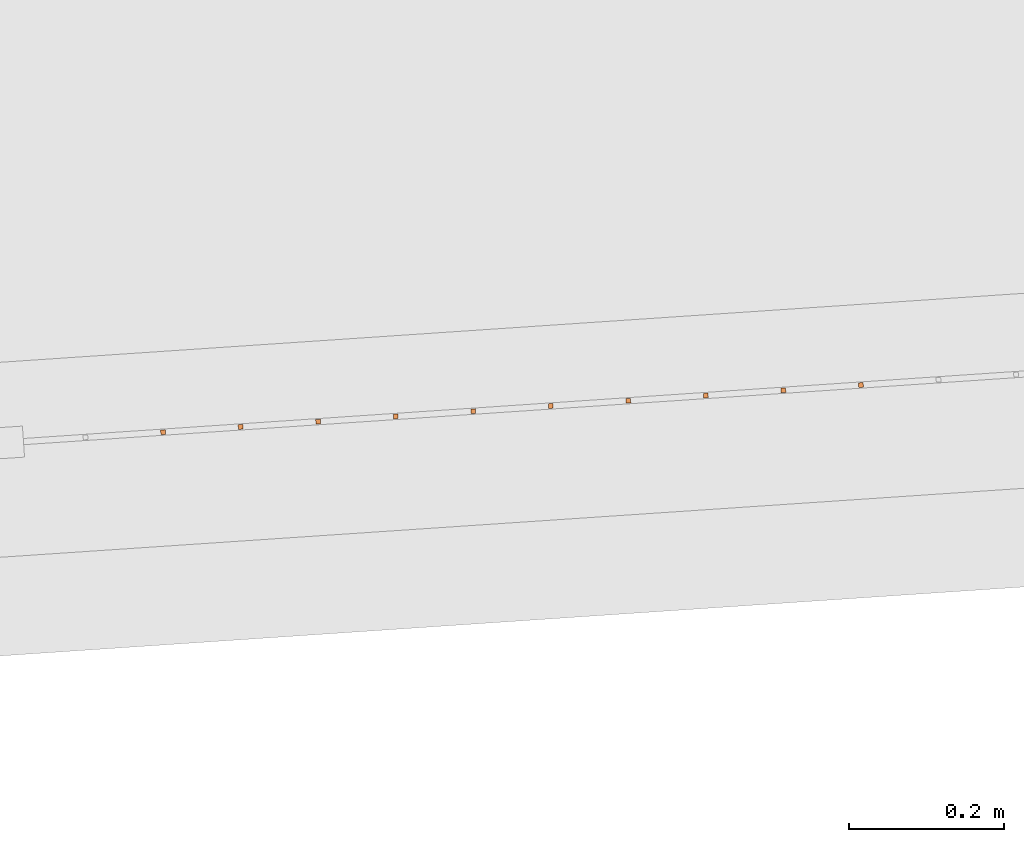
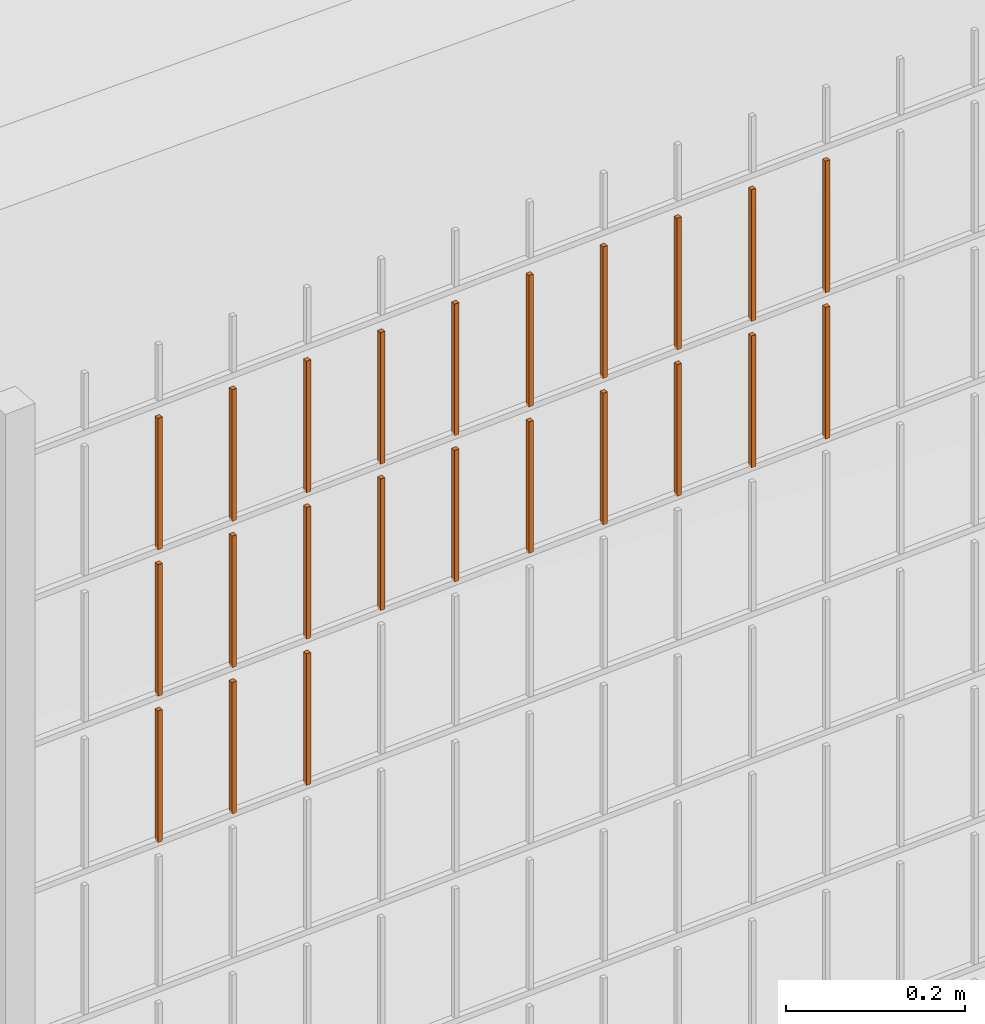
# One storey, part 368 of 1809: 23 proxies, 1 element without a shape of its own.
"""IFC2X3 building model written with IfcOpenShell, lengths in millimetres."""

from ifc_helpers import new_model, entity, si_unit, converted_unit, derived_unit, money_unit, direction, frame, origin_with_axes, place, context, subcontext, project, spatial, faceted_brep, source, transform, mapped, material, type_object, element, aggregate, save


model = new_model("IFC2X3")

# Units and contexts
model_context = context("Model", 3, precision=0.01, world=origin_with_axes(), true_north=direction((0.0, 1.0)))
body_context = subcontext(model_context, "Body", "Model", "MODEL_VIEW")
ifc_project = project(units=[si_unit("LENGTHUNIT", "METRE", prefix="MILLI"), si_unit("AREAUNIT", "SQUARE_METRE"), si_unit("VOLUMEUNIT", "CUBIC_METRE"), converted_unit("PLANEANGLEUNIT", "DEGREE", entity("IfcPlaneAngleMeasure", 0.0174532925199), si_unit("PLANEANGLEUNIT", "RADIAN"), dimensions=[0, 0, 0, 0, 0, 0, 0]), si_unit("SOLIDANGLEUNIT", "STERADIAN"), money_unit("EUR"), converted_unit("TIMEUNIT", "Year", entity("IfcTimeMeasure", 31556926.0), si_unit("TIMEUNIT", "SECOND"), dimensions=[0, 0, 1, 0, 0, 0, 0]), si_unit("MASSUNIT", "GRAM", prefix="KILO"), si_unit("THERMODYNAMICTEMPERATUREUNIT", "DEGREE_CELSIUS"), si_unit("LUMINOUSINTENSITYUNIT", "LUMEN"), si_unit("ENERGYUNIT", "JOULE", prefix="MEGA"), derived_unit("THERMALCONDUCTANCEUNIT", [(si_unit("POWERUNIT", "WATT"), 1), (si_unit("LENGTHUNIT", "METRE"), -1), (si_unit("THERMODYNAMICTEMPERATUREUNIT", "KELVIN"), -1)]), derived_unit("SPECIFICHEATCAPACITYUNIT", [(si_unit("ENERGYUNIT", "JOULE"), 1), (si_unit("MASSUNIT", "GRAM", prefix="KILO"), -1), (si_unit("THERMODYNAMICTEMPERATUREUNIT", "KELVIN"), -1)]), derived_unit("MASSDENSITYUNIT", [(si_unit("MASSUNIT", "GRAM", prefix="KILO"), 1), (si_unit("VOLUMEUNIT", "CUBIC_METRE"), -1)])], contexts=[model_context])

# Site, building, storey
site_placement = place(None, origin_with_axes())
site = spatial("IfcSite", under=ifc_project, at=site_placement, Name="Politse- ja Piirivalveameti ning Päästeameti ühishoone", CompositionType="ELEMENT")
building_placement = place(site_placement, origin_with_axes())
building = spatial("IfcBuilding", under=site, at=building_placement, Name="Politse- ja Piirivalveameti ning Päästeameti ühishoone", CompositionType="ELEMENT")
storey_placement = place(building_placement, origin_with_axes())
storey = spatial("IfcBuildingStorey", under=building, at=storey_placement, Name="Esimene korrus", CompositionType="ELEMENT", Elevation=0.0)

# Proxies
building_element_proxy_type_1 = type_object("IfcBuildingElementProxyType", Name="Railing Type", PredefinedType="NOTDEFINED")
proxy_1_placement = place(storey_placement, frame((89252.001212, -29183.4766571, 203.661247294), z_axis=(0.0, 0.0, 1.0), x_axis=(1.0, 0.0, 0.0)))
proxy_1 = element("IfcBuildingElementProxy", 1, at=proxy_1_placement, inside=storey, type_object=building_element_proxy_type_1, Name="PIIRDEAED")
ifc_material = material(Name="ET-03_Raud")
building_element_proxy_type_2 = type_object("IfcBuildingElementProxyType", Name="IfcBuildingElementProxy", PredefinedType="NOTDEFINED")
shared_shape_1 = source(origin_with_axes(), body_context, "Body", "Brep", [
    faceted_brep([(3.0, 3.0, -0.000752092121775), (-3.0, 3.0, -0.000752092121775), (-3.0, 3.0, 179.99926046), (3.0, 3.0, 179.99926046), (3.0, -3.0, 0.000752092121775), (-3.0, -3.0, 0.000752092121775), (-3.0, -3.0, 180.000764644), (3.0, -3.0, 180.000764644)], [[[0, 1, 2, 3]], [[0, 4, 5, 1]], [[1, 5, 6, 2]], [[3, 2, 6, 7]], [[4, 0, 3, 7]], [[5, 4, 7, 6]]]),
])
proxy_2_placement = place(proxy_1_placement, frame((-21577.5203482, -18755.2548305, 1821.81263163), z_axis=(0.0, 0.0, 1.0), x_axis=(1.0, 0.0, 0.0)))
proxy_2 = element("IfcBuildingElementProxy", 2, at=proxy_2_placement, type_object=building_element_proxy_type_2, material=ifc_material, Name="BALUSTER - 001", context=body_context, shape_type="MappedRepresentation", body=[
    mapped(shared_shape_1, transform((0.0, 0.0, 0.0), x_axis=(-0.0673926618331, 0.997726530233, 0.0), y_axis=(-0.997726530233, -0.0673926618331, 0.0), z_axis=(0.0, 0.0, 1.0))),
])
shared_shape_2 = source(origin_with_axes(), body_context, "Body", "Brep", [
    faceted_brep([(3.0, 3.0, -0.000752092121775), (-3.0, 3.0, -0.000752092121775), (-3.0, 3.0, 179.99926046), (3.0, 3.0, 179.99926046), (3.0, -3.0, 0.000752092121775), (-3.0, -3.0, 0.000752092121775), (-3.0, -3.0, 180.000764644), (3.0, -3.0, 180.000764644)], [[[0, 1, 2, 3]], [[0, 4, 5, 1]], [[1, 5, 6, 2]], [[3, 2, 6, 7]], [[4, 0, 3, 7]], [[5, 4, 7, 6]]]),
])
proxy_3_placement = place(proxy_1_placement, frame((-21477.7476952, -18748.5155643, 1821.83770137), z_axis=(0.0, 0.0, 1.0), x_axis=(1.0, 0.0, 0.0)))
proxy_3 = element("IfcBuildingElementProxy", 3, at=proxy_3_placement, type_object=building_element_proxy_type_2, material=ifc_material, Name="BALUSTER - 001", context=body_context, shape_type="MappedRepresentation", body=[
    mapped(shared_shape_2, transform((0.0, 0.0, 0.0), x_axis=(-0.0673926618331, 0.997726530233, 0.0), y_axis=(-0.997726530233, -0.0673926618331, 0.0), z_axis=(0.0, 0.0, 1.0))),
])
shared_shape_3 = source(origin_with_axes(), body_context, "Body", "Brep", [
    faceted_brep([(3.0, 3.0, -0.000752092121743), (-3.0, 3.0, -0.000752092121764), (-3.0, 3.0, 179.99926046), (3.0, 3.0, 179.99926046), (3.0, -3.0, 0.000752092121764), (-3.0, -3.0, 0.000752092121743), (-3.0, -3.0, 180.000764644), (3.0, -3.0, 180.000764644)], [[[0, 1, 2, 3]], [[0, 4, 5, 1]], [[1, 5, 6, 2]], [[3, 2, 6, 7]], [[4, 0, 3, 7]], [[5, 4, 7, 6]]]),
])
proxy_4_placement = place(proxy_1_placement, frame((-21777.0656543, -18768.7333629, 1821.76249215), z_axis=(0.0, 0.0, 1.0), x_axis=(1.0, 0.0, 0.0)))
proxy_4 = element("IfcBuildingElementProxy", 4, at=proxy_4_placement, type_object=building_element_proxy_type_2, material=ifc_material, Name="BALUSTER - 001", context=body_context, shape_type="MappedRepresentation", body=[
    mapped(shared_shape_3, transform((0.0, 0.0, 0.0), x_axis=(-0.0673926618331, 0.997726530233, 0.0), y_axis=(-0.997726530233, -0.0673926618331, 0.0), z_axis=(0.0, 0.0, 1.0))),
])
shared_shape_4 = source(origin_with_axes(), body_context, "Body", "Brep", [
    faceted_brep([(3.0, 3.0, -0.000752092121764), (-3.0, 3.0, -0.000752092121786), (-3.0, 3.0, 179.99926046), (3.0, 3.0, 179.99926046), (3.0, -3.0, 0.000752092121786), (-3.0, -3.0, 0.000752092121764), (-3.0, -3.0, 180.000764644), (3.0, -3.0, 180.000764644)], [[[0, 1, 2, 3]], [[0, 4, 5, 1]], [[1, 5, 6, 2]], [[3, 2, 6, 7]], [[4, 0, 3, 7]], [[5, 4, 7, 6]]]),
])
proxy_5_placement = place(proxy_1_placement, frame((-21178.4297361, -18728.2977658, 1821.91291058), z_axis=(0.0, 0.0, 1.0), x_axis=(1.0, 0.0, 0.0)))
proxy_5 = element("IfcBuildingElementProxy", 5, at=proxy_5_placement, type_object=building_element_proxy_type_2, material=ifc_material, Name="BALUSTER - 001", context=body_context, shape_type="MappedRepresentation", body=[
    mapped(shared_shape_4, transform((0.0, 0.0, 0.0), x_axis=(-0.0673926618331, 0.997726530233, 0.0), y_axis=(-0.997726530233, -0.0673926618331, 0.0), z_axis=(0.0, 0.0, 1.0))),
])
proxy_6_placement = place(proxy_1_placement, frame((-21377.9750422, -18741.7762981, 1821.8627711), z_axis=(0.0, 0.0, 1.0), x_axis=(1.0, 0.0, 0.0)))
proxy_6 = element("IfcBuildingElementProxy", 6, at=proxy_6_placement, type_object=building_element_proxy_type_2, material=ifc_material, Name="BALUSTER - 001", context=body_context, shape_type="MappedRepresentation", body=[
    mapped(shared_shape_4, transform((0.0, 0.0, 0.0), x_axis=(-0.0673926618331, 0.997726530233, 0.0), y_axis=(-0.997726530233, -0.0673926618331, 0.0), z_axis=(0.0, 0.0, 1.0))),
])
proxy_7_placement = place(proxy_1_placement, frame((-21677.2930012, -18761.9940967, 1821.78756189), z_axis=(0.0, 0.0, 1.0), x_axis=(1.0, 0.0, 0.0)))
proxy_7 = element("IfcBuildingElementProxy", 7, at=proxy_7_placement, type_object=building_element_proxy_type_2, material=ifc_material, Name="BALUSTER - 001", context=body_context, shape_type="MappedRepresentation", body=[
    mapped(shared_shape_4, transform((0.0, 0.0, 0.0), x_axis=(-0.0673926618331, 0.997726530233, 0.0), y_axis=(-0.997726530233, -0.0673926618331, 0.0), z_axis=(0.0, 0.0, 1.0))),
])
shared_shape_5 = source(origin_with_axes(), body_context, "Body", "Brep", [
    faceted_brep([(3.0, 3.0, -0.000752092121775), (-3.0, 3.0, -0.000752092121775), (-3.0, 3.0, 179.99926046), (3.0, 3.0, 179.99926046), (3.0, -3.0, 0.000752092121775), (-3.0, -3.0, 0.000752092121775), (-3.0, -3.0, 180.000764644), (3.0, -3.0, 180.000764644)], [[[0, 1, 2, 3]], [[0, 4, 5, 1]], [[1, 5, 6, 2]], [[3, 2, 6, 7]], [[4, 0, 3, 7]], [[5, 4, 7, 6]]]),
])
proxy_8_placement = place(proxy_1_placement, frame((-21278.2023891, -18735.037032, 1821.88784084), z_axis=(0.0, 0.0, 1.0), x_axis=(1.0, 0.0, 0.0)))
proxy_8 = element("IfcBuildingElementProxy", 8, at=proxy_8_placement, type_object=building_element_proxy_type_2, material=ifc_material, Name="BALUSTER - 001", context=body_context, shape_type="MappedRepresentation", body=[
    mapped(shared_shape_5, transform((0.0, 0.0, 0.0), x_axis=(-0.0673926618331, 0.997726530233, 0.0), y_axis=(-0.997726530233, -0.0673926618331, 0.0), z_axis=(0.0, 0.0, 1.0))),
])
shared_shape_6 = source(origin_with_axes(), body_context, "Body", "Brep", [
    faceted_brep([(3.0, 3.0, -0.000752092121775), (-3.0, 3.0, -0.000752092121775), (-3.0, 3.0, 179.99926046), (3.0, 3.0, 179.99926046), (3.0, -3.0, 0.000752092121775), (-3.0, -3.0, 0.000752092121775), (-3.0, -3.0, 180.000764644), (3.0, -3.0, 180.000764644)], [[[0, 1, 2, 3]], [[0, 4, 5, 1]], [[1, 5, 6, 2]], [[3, 2, 6, 7]], [[4, 0, 3, 7]], [[5, 4, 7, 6]]]),
])
proxy_9_placement = place(proxy_1_placement, frame((-21577.5203482, -18755.2548305, 1621.81263163), z_axis=(0.0, 0.0, 1.0), x_axis=(1.0, 0.0, 0.0)))
proxy_9 = element("IfcBuildingElementProxy", 9, at=proxy_9_placement, type_object=building_element_proxy_type_2, material=ifc_material, Name="BALUSTER - 001", context=body_context, shape_type="MappedRepresentation", body=[
    mapped(shared_shape_6, transform((0.0, 0.0, 0.0), x_axis=(-0.0673926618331, 0.997726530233, 0.0), y_axis=(-0.997726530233, -0.0673926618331, 0.0), z_axis=(0.0, 0.0, 1.0))),
])
shared_shape_7 = source(origin_with_axes(), body_context, "Body", "Brep", [
    faceted_brep([(3.0, 3.0, -0.000752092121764), (-3.0, 3.0, -0.000752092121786), (-3.0, 3.0, 179.99926046), (3.0, 3.0, 179.99926046), (3.0, -3.0, 0.000752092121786), (-3.0, -3.0, 0.000752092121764), (-3.0, -3.0, 180.000764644), (3.0, -3.0, 180.000764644)], [[[0, 1, 2, 3]], [[0, 4, 5, 1]], [[1, 5, 6, 2]], [[3, 2, 6, 7]], [[4, 0, 3, 7]], [[5, 4, 7, 6]]]),
])
proxy_10_placement = place(proxy_1_placement, frame((-21377.9750422, -18741.7762981, 1621.8627711), z_axis=(0.0, 0.0, 1.0), x_axis=(1.0, 0.0, 0.0)))
proxy_10 = element("IfcBuildingElementProxy", 10, at=proxy_10_placement, type_object=building_element_proxy_type_2, material=ifc_material, Name="BALUSTER - 001", context=body_context, shape_type="MappedRepresentation", body=[
    mapped(shared_shape_7, transform((0.0, 0.0, 0.0), x_axis=(-0.0673926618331, 0.997726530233, 0.0), y_axis=(-0.997726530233, -0.0673926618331, 0.0), z_axis=(0.0, 0.0, 1.0))),
])
shared_shape_8 = source(origin_with_axes(), body_context, "Body", "Brep", [
    faceted_brep([(3.0, 3.0, -0.000752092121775), (-3.0, 3.0, -0.000752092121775), (-3.0, 3.0, 179.99926046), (3.0, 3.0, 179.99926046), (3.0, -3.0, 0.000752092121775), (-3.0, -3.0, 0.000752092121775), (-3.0, -3.0, 180.000764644), (3.0, -3.0, 180.000764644)], [[[0, 1, 2, 3]], [[0, 4, 5, 1]], [[1, 5, 6, 2]], [[3, 2, 6, 7]], [[4, 0, 3, 7]], [[5, 4, 7, 6]]]),
])
proxy_11_placement = place(proxy_1_placement, frame((-21278.2023891, -18735.037032, 1621.88784084), z_axis=(0.0, 0.0, 1.0), x_axis=(1.0, 0.0, 0.0)))
proxy_11 = element("IfcBuildingElementProxy", 11, at=proxy_11_placement, type_object=building_element_proxy_type_2, material=ifc_material, Name="BALUSTER - 001", context=body_context, shape_type="MappedRepresentation", body=[
    mapped(shared_shape_8, transform((0.0, 0.0, 0.0), x_axis=(-0.0673926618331, 0.997726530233, 0.0), y_axis=(-0.997726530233, -0.0673926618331, 0.0), z_axis=(0.0, 0.0, 1.0))),
])
shared_shape_9 = source(origin_with_axes(), body_context, "Body", "Brep", [
    faceted_brep([(3.0, 3.0, -0.000752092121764), (-3.0, 3.0, -0.000752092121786), (-3.0, 3.0, 179.99926046), (3.0, 3.0, 179.99926046), (3.0, -3.0, 0.000752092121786), (-3.0, -3.0, 0.000752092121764), (-3.0, -3.0, 180.000764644), (3.0, -3.0, 180.000764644)], [[[0, 1, 2, 3]], [[0, 4, 5, 1]], [[1, 5, 6, 2]], [[3, 2, 6, 7]], [[4, 0, 3, 7]], [[5, 4, 7, 6]]]),
])
proxy_12_placement = place(proxy_1_placement, frame((-21178.4297361, -18728.2977658, 1621.91291058), z_axis=(0.0, 0.0, 1.0), x_axis=(1.0, 0.0, 0.0)))
proxy_12 = element("IfcBuildingElementProxy", 12, at=proxy_12_placement, type_object=building_element_proxy_type_2, material=ifc_material, Name="BALUSTER - 001", context=body_context, shape_type="MappedRepresentation", body=[
    mapped(shared_shape_9, transform((0.0, 0.0, 0.0), x_axis=(-0.0673926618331, 0.997726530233, 0.0), y_axis=(-0.997726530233, -0.0673926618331, 0.0), z_axis=(0.0, 0.0, 1.0))),
])
proxy_13_placement = place(proxy_1_placement, frame((-21677.2930012, -18761.9940967, 1621.78756189), z_axis=(0.0, 0.0, 1.0), x_axis=(1.0, 0.0, 0.0)))
proxy_13 = element("IfcBuildingElementProxy", 13, at=proxy_13_placement, type_object=building_element_proxy_type_2, material=ifc_material, Name="BALUSTER - 001", context=body_context, shape_type="MappedRepresentation", body=[
    mapped(shared_shape_9, transform((0.0, 0.0, 0.0), x_axis=(-0.0673926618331, 0.997726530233, 0.0), y_axis=(-0.997726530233, -0.0673926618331, 0.0), z_axis=(0.0, 0.0, 1.0))),
])
shared_shape_10 = source(origin_with_axes(), body_context, "Body", "Brep", [
    faceted_brep([(3.0, 3.0, -0.000752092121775), (-3.0, 3.0, -0.000752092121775), (-3.0, 3.0, 179.99926046), (3.0, 3.0, 179.99926046), (3.0, -3.0, 0.000752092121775), (-3.0, -3.0, 0.000752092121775), (-3.0, -3.0, 180.000764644), (3.0, -3.0, 180.000764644)], [[[0, 1, 2, 3]], [[0, 4, 5, 1]], [[1, 5, 6, 2]], [[3, 2, 6, 7]], [[4, 0, 3, 7]], [[5, 4, 7, 6]]]),
])
proxy_14_placement = place(proxy_1_placement, frame((-21477.7476952, -18748.5155643, 1621.83770137), z_axis=(0.0, 0.0, 1.0), x_axis=(1.0, 0.0, 0.0)))
proxy_14 = element("IfcBuildingElementProxy", 14, at=proxy_14_placement, type_object=building_element_proxy_type_2, material=ifc_material, Name="BALUSTER - 001", context=body_context, shape_type="MappedRepresentation", body=[
    mapped(shared_shape_10, transform((0.0, 0.0, 0.0), x_axis=(-0.0673926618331, 0.997726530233, 0.0), y_axis=(-0.997726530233, -0.0673926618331, 0.0), z_axis=(0.0, 0.0, 1.0))),
])
shared_shape_11 = source(origin_with_axes(), body_context, "Body", "Brep", [
    faceted_brep([(3.0, 3.0, -0.000752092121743), (-3.0, 3.0, -0.000752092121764), (-3.0, 3.0, 179.99926046), (3.0, 3.0, 179.99926046), (3.0, -3.0, 0.000752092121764), (-3.0, -3.0, 0.000752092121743), (-3.0, -3.0, 180.000764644), (3.0, -3.0, 180.000764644)], [[[0, 1, 2, 3]], [[0, 4, 5, 1]], [[1, 5, 6, 2]], [[3, 2, 6, 7]], [[4, 0, 3, 7]], [[5, 4, 7, 6]]]),
])
proxy_15_placement = place(proxy_1_placement, frame((-21777.0656543, -18768.7333629, 1621.76249215), z_axis=(0.0, 0.0, 1.0), x_axis=(1.0, 0.0, 0.0)))
proxy_15 = element("IfcBuildingElementProxy", 15, at=proxy_15_placement, type_object=building_element_proxy_type_2, material=ifc_material, Name="BALUSTER - 001", context=body_context, shape_type="MappedRepresentation", body=[
    mapped(shared_shape_11, transform((0.0, 0.0, 0.0), x_axis=(-0.0673926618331, 0.997726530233, 0.0), y_axis=(-0.997726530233, -0.0673926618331, 0.0), z_axis=(0.0, 0.0, 1.0))),
])
shared_shape_12 = source(origin_with_axes(), body_context, "Body", "Brep", [
    faceted_brep([(3.0, 3.0, -0.000752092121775), (-3.0, 3.0, -0.000752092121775), (-3.0, 3.0, 179.99926046), (3.0, 3.0, 179.99926046), (3.0, -3.0, 0.000752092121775), (-3.0, -3.0, 0.000752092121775), (-3.0, -3.0, 180.000764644), (3.0, -3.0, 180.000764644)], [[[0, 1, 2, 3]], [[0, 4, 5, 1]], [[1, 5, 6, 2]], [[3, 2, 6, 7]], [[4, 0, 3, 7]], [[5, 4, 7, 6]]]),
])
proxy_16_placement = place(proxy_1_placement, frame((-21976.6109603, -18782.2118952, 1821.71235268), z_axis=(0.0, 0.0, 1.0), x_axis=(1.0, 0.0, 0.0)))
proxy_16 = element("IfcBuildingElementProxy", 16, at=proxy_16_placement, type_object=building_element_proxy_type_2, material=ifc_material, Name="BALUSTER - 001", context=body_context, shape_type="MappedRepresentation", body=[
    mapped(shared_shape_12, transform((0.0, 0.0, 0.0), x_axis=(-0.0673926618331, 0.997726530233, 0.0), y_axis=(-0.997726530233, -0.0673926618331, 0.0), z_axis=(0.0, 0.0, 1.0))),
])
shared_shape_13 = source(origin_with_axes(), body_context, "Body", "Brep", [
    faceted_brep([(3.0, 3.0, -0.000752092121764), (-3.0, 3.0, -0.000752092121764), (-3.0, 3.0, 179.99926046), (3.0, 3.0, 179.99926046), (3.0, -3.0, 0.000752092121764), (-3.0, -3.0, 0.000752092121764), (-3.0, -3.0, 180.000764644), (3.0, -3.0, 180.000764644)], [[[0, 1, 2, 3]], [[0, 4, 5, 1]], [[1, 5, 6, 2]], [[3, 2, 6, 7]], [[4, 0, 3, 7]], [[5, 4, 7, 6]]]),
])
proxy_17_placement = place(proxy_1_placement, frame((-21876.8383073, -18775.4726291, 1421.73742242), z_axis=(0.0, 0.0, 1.0), x_axis=(1.0, 0.0, 0.0)))
proxy_17 = element("IfcBuildingElementProxy", 17, at=proxy_17_placement, type_object=building_element_proxy_type_2, material=ifc_material, Name="BALUSTER - 001", context=body_context, shape_type="MappedRepresentation", body=[
    mapped(shared_shape_13, transform((0.0, 0.0, 0.0), x_axis=(-0.0673926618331, 0.997726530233, 0.0), y_axis=(-0.997726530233, -0.0673926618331, 0.0), z_axis=(0.0, 0.0, 1.0))),
])
proxy_18_placement = place(proxy_1_placement, frame((-21876.8383073, -18775.4726291, 1621.73742242), z_axis=(0.0, 0.0, 1.0), x_axis=(1.0, 0.0, 0.0)))
proxy_18 = element("IfcBuildingElementProxy", 18, at=proxy_18_placement, type_object=building_element_proxy_type_2, material=ifc_material, Name="BALUSTER - 001", context=body_context, shape_type="MappedRepresentation", body=[
    mapped(shared_shape_13, transform((0.0, 0.0, 0.0), x_axis=(-0.0673926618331, 0.997726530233, 0.0), y_axis=(-0.997726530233, -0.0673926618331, 0.0), z_axis=(0.0, 0.0, 1.0))),
])
shared_shape_14 = source(origin_with_axes(), body_context, "Body", "Brep", [
    faceted_brep([(3.0, 3.0, -0.000752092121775), (-3.0, 3.0, -0.000752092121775), (-3.0, 3.0, 179.99926046), (3.0, 3.0, 179.99926046), (3.0, -3.0, 0.000752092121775), (-3.0, -3.0, 0.000752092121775), (-3.0, -3.0, 180.000764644), (3.0, -3.0, 180.000764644)], [[[0, 1, 2, 3]], [[0, 4, 5, 1]], [[1, 5, 6, 2]], [[3, 2, 6, 7]], [[4, 0, 3, 7]], [[5, 4, 7, 6]]]),
])
proxy_19_placement = place(proxy_1_placement, frame((-21976.6109603, -18782.2118952, 1421.71235268), z_axis=(0.0, 0.0, 1.0), x_axis=(1.0, 0.0, 0.0)))
proxy_19 = element("IfcBuildingElementProxy", 19, at=proxy_19_placement, type_object=building_element_proxy_type_2, material=ifc_material, Name="BALUSTER - 001", context=body_context, shape_type="MappedRepresentation", body=[
    mapped(shared_shape_14, transform((0.0, 0.0, 0.0), x_axis=(-0.0673926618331, 0.997726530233, 0.0), y_axis=(-0.997726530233, -0.0673926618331, 0.0), z_axis=(0.0, 0.0, 1.0))),
])
proxy_20_placement = place(proxy_1_placement, frame((-21976.6109603, -18782.2118952, 1621.71235268), z_axis=(0.0, 0.0, 1.0), x_axis=(1.0, 0.0, 0.0)))
proxy_20 = element("IfcBuildingElementProxy", 20, at=proxy_20_placement, type_object=building_element_proxy_type_2, material=ifc_material, Name="BALUSTER - 001", context=body_context, shape_type="MappedRepresentation", body=[
    mapped(shared_shape_14, transform((0.0, 0.0, 0.0), x_axis=(-0.0673926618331, 0.997726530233, 0.0), y_axis=(-0.997726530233, -0.0673926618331, 0.0), z_axis=(0.0, 0.0, 1.0))),
])
shared_shape_15 = source(origin_with_axes(), body_context, "Body", "Brep", [
    faceted_brep([(3.0, 3.0, -0.000752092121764), (-3.0, 3.0, -0.000752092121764), (-3.0, 3.0, 179.99926046), (3.0, 3.0, 179.99926046), (3.0, -3.0, 0.000752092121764), (-3.0, -3.0, 0.000752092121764), (-3.0, -3.0, 180.000764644), (3.0, -3.0, 180.000764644)], [[[0, 1, 2, 3]], [[0, 4, 5, 1]], [[1, 5, 6, 2]], [[3, 2, 6, 7]], [[4, 0, 3, 7]], [[5, 4, 7, 6]]]),
])
proxy_21_placement = place(proxy_1_placement, frame((-22076.3836133, -18788.9511614, 1421.68728294), z_axis=(0.0, 0.0, 1.0), x_axis=(1.0, 0.0, 0.0)))
proxy_21 = element("IfcBuildingElementProxy", 21, at=proxy_21_placement, type_object=building_element_proxy_type_2, material=ifc_material, Name="BALUSTER - 001", context=body_context, shape_type="MappedRepresentation", body=[
    mapped(shared_shape_15, transform((0.0, 0.0, 0.0), x_axis=(-0.0673926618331, 0.997726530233, 0.0), y_axis=(-0.997726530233, -0.0673926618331, 0.0), z_axis=(0.0, 0.0, 1.0))),
])
shared_shape_16 = source(origin_with_axes(), body_context, "Body", "Brep", [
    faceted_brep([(3.0, 3.0, -0.000752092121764), (-3.0, 3.0, -0.000752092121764), (-3.0, 3.0, 179.99926046), (3.0, 3.0, 179.99926046), (3.0, -3.0, 0.000752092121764), (-3.0, -3.0, 0.000752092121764), (-3.0, -3.0, 180.000764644), (3.0, -3.0, 180.000764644)], [[[0, 1, 2, 3]], [[0, 4, 5, 1]], [[1, 5, 6, 2]], [[3, 2, 6, 7]], [[4, 0, 3, 7]], [[5, 4, 7, 6]]]),
])
proxy_22_placement = place(proxy_1_placement, frame((-22076.3836133, -18788.9511614, 1621.68728294), z_axis=(0.0, 0.0, 1.0), x_axis=(1.0, 0.0, 0.0)))
proxy_22 = element("IfcBuildingElementProxy", 22, at=proxy_22_placement, type_object=building_element_proxy_type_2, material=ifc_material, Name="BALUSTER - 001", context=body_context, shape_type="MappedRepresentation", body=[
    mapped(shared_shape_16, transform((0.0, 0.0, 0.0), x_axis=(-0.0673926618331, 0.997726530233, 0.0), y_axis=(-0.997726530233, -0.0673926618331, 0.0), z_axis=(0.0, 0.0, 1.0))),
])
shared_shape_17 = source(origin_with_axes(), body_context, "Body", "Brep", [
    faceted_brep([(3.0, 3.0, -0.000752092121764), (-3.0, 3.0, -0.000752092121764), (-3.0, 3.0, 179.99926046), (3.0, 3.0, 179.99926046), (3.0, -3.0, 0.000752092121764), (-3.0, -3.0, 0.000752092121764), (-3.0, -3.0, 180.000764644), (3.0, -3.0, 180.000764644)], [[[0, 1, 2, 3]], [[0, 4, 5, 1]], [[1, 5, 6, 2]], [[3, 2, 6, 7]], [[4, 0, 3, 7]], [[5, 4, 7, 6]]]),
])
proxy_23_placement = place(proxy_1_placement, frame((-21876.8383073, -18775.4726291, 1821.73742242), z_axis=(0.0, 0.0, 1.0), x_axis=(1.0, 0.0, 0.0)))
proxy_23 = element("IfcBuildingElementProxy", 23, at=proxy_23_placement, type_object=building_element_proxy_type_2, material=ifc_material, Name="BALUSTER - 001", context=body_context, shape_type="MappedRepresentation", body=[
    mapped(shared_shape_17, transform((0.0, 0.0, 0.0), x_axis=(-0.0673926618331, 0.997726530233, 0.0), y_axis=(-0.997726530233, -0.0673926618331, 0.0), z_axis=(0.0, 0.0, 1.0))),
])
shared_shape_18 = source(origin_with_axes(), body_context, "Body", "Brep", [
    faceted_brep([(3.0, 3.0, -0.000752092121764), (-3.0, 3.0, -0.000752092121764), (-3.0, 3.0, 179.99926046), (3.0, 3.0, 179.99926046), (3.0, -3.0, 0.000752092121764), (-3.0, -3.0, 0.000752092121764), (-3.0, -3.0, 180.000764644), (3.0, -3.0, 180.000764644)], [[[0, 1, 2, 3]], [[0, 4, 5, 1]], [[1, 5, 6, 2]], [[3, 2, 6, 7]], [[4, 0, 3, 7]], [[5, 4, 7, 6]]]),
])
proxy_24_placement = place(proxy_1_placement, frame((-22076.3836133, -18788.9511614, 1821.68728294), z_axis=(0.0, 0.0, 1.0), x_axis=(1.0, 0.0, 0.0)))
proxy_24 = element("IfcBuildingElementProxy", 24, at=proxy_24_placement, type_object=building_element_proxy_type_2, material=ifc_material, Name="BALUSTER - 001", context=body_context, shape_type="MappedRepresentation", body=[
    mapped(shared_shape_18, transform((0.0, 0.0, 0.0), x_axis=(-0.0673926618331, 0.997726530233, 0.0), y_axis=(-0.997726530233, -0.0673926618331, 0.0), z_axis=(0.0, 0.0, 1.0))),
])
aggregate(proxy_1, [proxy_17, proxy_19, proxy_21, proxy_12, proxy_11, proxy_10, proxy_14, proxy_9, proxy_13, proxy_15, proxy_18, proxy_20, proxy_22, proxy_5, proxy_8, proxy_6, proxy_3, proxy_2, proxy_7, proxy_4, proxy_23, proxy_16, proxy_24])

save(model, "model.ifc")
